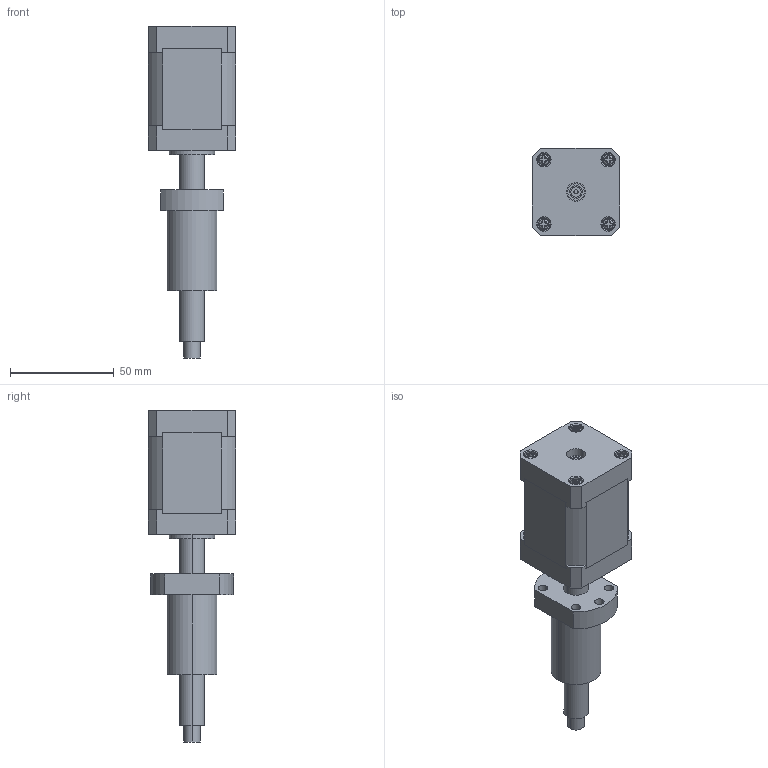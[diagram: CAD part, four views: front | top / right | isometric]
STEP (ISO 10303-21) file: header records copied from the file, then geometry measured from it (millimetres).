
FILE_DESCRIPTION (( 'STEP AP203' ), '1' );
FILE_NAME ('42SE1860-425-BS1210-100-01.STEP', '2022-06-30T12:18:29', ( 'USER-' ), ( 'MS' ), 'SwSTEP 2.0', 'SolidWorks 2018', '' );
FILE_SCHEMA (( 'CONFIG_CONTROL_DESIGN' ));
Length unit declared in the file: millimetre
Products named in the file (1): 42SE1860-425-BS1210-100-01
Bounding box: 42 x 42 x 160 mm (x, y, z)
Volume: 135311.7 mm3; surface area: 33780.5 mm2
Topology: 5 solids, 5 shells, 235 faces, 590 edges, 388 vertices
Faces by surface type: plane 127, cylinder 82, torus 16, cone 10
Entity records: 7321 total; most frequent: CARTESIAN_POINT 1470, DIRECTION 1230, ORIENTED_EDGE 1180, EDGE_CURVE 590, AXIS2_PLACEMENT_3D 460, VERTEX_POINT 388, LINE 310, VECTOR 310
